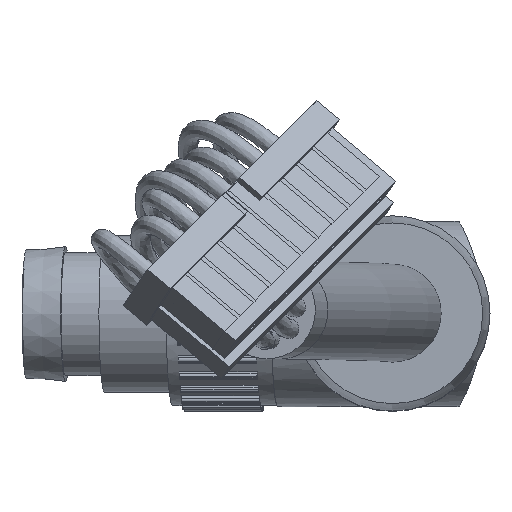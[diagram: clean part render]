
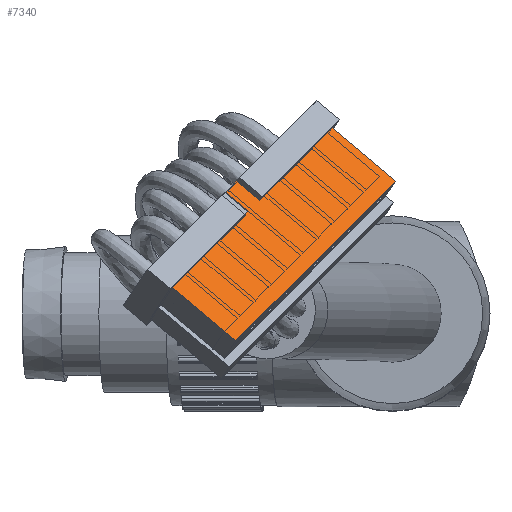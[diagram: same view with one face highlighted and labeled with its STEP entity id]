
A CAD part, top view. The second image highlights one B-rep face of the part: STEP entity #7340.
In plain terms, the highlighted planar face has unit normal (0.363, 0.546, 0.755).
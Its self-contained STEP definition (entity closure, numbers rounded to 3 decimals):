
#708=FACE_OUTER_BOUND('',#1145,.T.);
#1145=EDGE_LOOP('',(#5044,#5045,#5046,#5047,#5048,#5049,#5050,#5051));
#1719=LINE('',#11001,#2378);
#1725=LINE('',#11013,#2384);
#1726=LINE('',#11015,#2385);
#1767=LINE('',#11097,#2426);
#1772=LINE('',#11109,#2431);
#1775=LINE('',#11115,#2434);
#1776=LINE('',#11116,#2435);
#1777=LINE('',#11117,#2436);
#2378=VECTOR('',#8773,10.);
#2384=VECTOR('',#8781,10.);
#2385=VECTOR('',#8784,10.);
#2426=VECTOR('',#8869,10.);
#2431=VECTOR('',#8878,10.);
#2434=VECTOR('',#8883,10.);
#2435=VECTOR('',#8884,10.);
#2436=VECTOR('',#8885,10.);
#2976=VERTEX_POINT('',#10997);
#2978=VERTEX_POINT('',#11000);
#2981=VERTEX_POINT('',#11007);
#2983=VERTEX_POINT('',#11011);
#3000=VERTEX_POINT('',#11091);
#3002=VERTEX_POINT('',#11095);
#3007=VERTEX_POINT('',#11108);
#3009=VERTEX_POINT('',#11114);
#3721=EDGE_CURVE('',#2978,#2976,#1719,.T.);
#3727=EDGE_CURVE('',#2983,#2981,#1725,.T.);
#3728=EDGE_CURVE('',#2981,#2976,#1726,.T.);
#3769=EDGE_CURVE('',#3000,#3002,#1767,.T.);
#3774=EDGE_CURVE('',#3000,#3007,#1772,.T.);
#3777=EDGE_CURVE('',#3002,#3009,#1775,.T.);
#3778=EDGE_CURVE('',#3009,#2978,#1776,.T.);
#3779=EDGE_CURVE('',#2983,#3007,#1777,.T.);
#5044=ORIENTED_EDGE('',*,*,#3769,.T.);
#5045=ORIENTED_EDGE('',*,*,#3777,.T.);
#5046=ORIENTED_EDGE('',*,*,#3778,.T.);
#5047=ORIENTED_EDGE('',*,*,#3721,.T.);
#5048=ORIENTED_EDGE('',*,*,#3728,.F.);
#5049=ORIENTED_EDGE('',*,*,#3727,.F.);
#5050=ORIENTED_EDGE('',*,*,#3779,.T.);
#5051=ORIENTED_EDGE('',*,*,#3774,.F.);
#6673=PLANE('',#7772);
#7340=ADVANCED_FACE('',(#708),#6673,.F.);
#7772=AXIS2_PLACEMENT_3D('',#11113,#8881,#8882);
#8773=DIRECTION('',(-0.761,0.641,-0.098));
#8781=DIRECTION('',(-0.761,0.641,-0.098));
#8784=DIRECTION('',(0.538,0.539,-0.648));
#8869=DIRECTION('',(0.538,0.539,-0.648));
#8878=DIRECTION('',(-0.761,0.641,-0.098));
#8881=DIRECTION('center_axis',(-0.363,-0.546,-0.755));
#8882=DIRECTION('ref_axis',(-0.538,-0.539,0.648));
#8883=DIRECTION('',(-0.761,0.641,-0.098));
#8884=DIRECTION('',(-0.538,-0.539,0.648));
#8885=DIRECTION('',(-0.538,-0.539,0.648));
#10997=CARTESIAN_POINT('',(-7.964,6.573,145.576));
#11000=CARTESIAN_POINT('',(-6.785,5.579,145.728));
#11001=CARTESIAN_POINT('',(-6.785,5.579,145.728));
#11007=CARTESIAN_POINT('',(-8.717,5.819,146.483));
#11011=CARTESIAN_POINT('',(-7.538,4.825,146.636));
#11013=CARTESIAN_POINT('',(-7.538,4.825,146.636));
#11015=CARTESIAN_POINT('',(-8.153,6.384,145.803));
#11091=CARTESIAN_POINT('',(-8.016,-1.619,151.527));
#11095=CARTESIAN_POINT('',(0.161,6.571,141.673));
#11097=CARTESIAN_POINT('',(-1.883,4.523,144.137));
#11108=CARTESIAN_POINT('',(-11.25,1.107,151.109));
#11109=CARTESIAN_POINT('',(-7.636,-1.94,151.576));
#11113=CARTESIAN_POINT('Origin',(0.541,6.25,141.722));
#11114=CARTESIAN_POINT('',(-3.073,9.297,141.255));
#11115=CARTESIAN_POINT('',(0.541,6.25,141.722));
#11116=CARTESIAN_POINT('',(-11.371,0.985,151.255));
#11117=CARTESIAN_POINT('',(-11.371,0.985,151.255));
